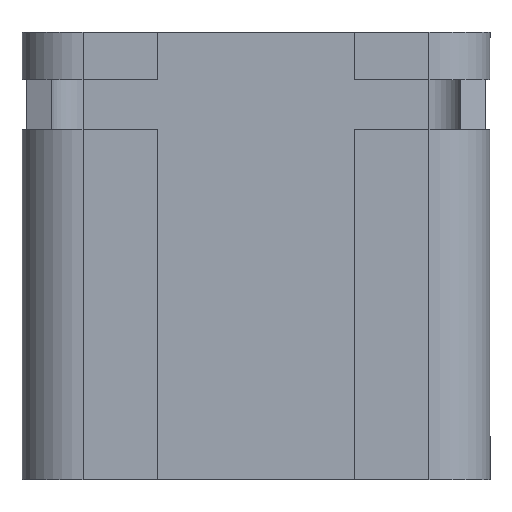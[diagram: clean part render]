
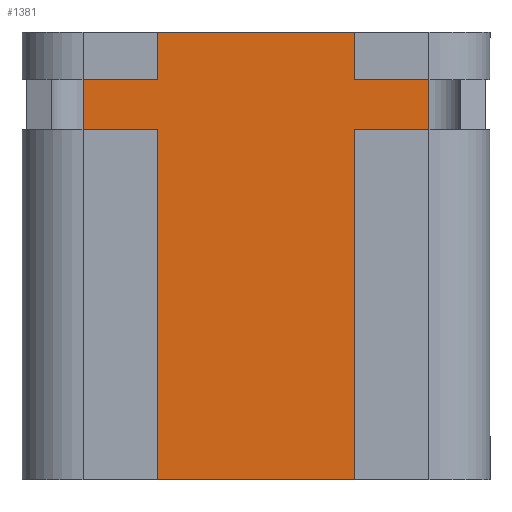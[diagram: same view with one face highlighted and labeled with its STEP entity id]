
A CAD part, front view. The second image highlights one B-rep face of the part: STEP entity #1381.
In plain terms, the highlighted planar face has unit normal (0, -1, 0).
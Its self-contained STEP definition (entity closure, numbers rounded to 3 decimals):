
#31 = CARTESIAN_POINT ( 'NONE',  ( 4., 2.45, -6.6 ) ) ;
#92 = VERTEX_POINT ( 'NONE', #378 ) ;
#125 = LINE ( 'NONE', #1369, #1791 ) ;
#138 = FACE_OUTER_BOUND ( 'NONE', #1848, .T. ) ;
#310 = EDGE_CURVE ( 'NONE', #391, #1844, #125, .T. ) ;
#316 = LINE ( 'NONE', #661, #726 ) ;
#378 = CARTESIAN_POINT ( 'NONE',  ( -1.1, 2.45, -6.6 ) ) ;
#391 = VERTEX_POINT ( 'NONE', #960 ) ;
#473 = ORIENTED_EDGE ( 'NONE', *, *, #1401, .F. ) ;
#521 = ORIENTED_EDGE ( 'NONE', *, *, #310, .F. ) ;
#578 = DIRECTION ( 'NONE',  ( 0., 0., 1. ) ) ;
#661 = CARTESIAN_POINT ( 'NONE',  ( -2., 2.45, -6.6 ) ) ;
#664 = CARTESIAN_POINT ( 'NONE',  ( -2., 2.45, -6.6 ) ) ;
#726 = VECTOR ( 'NONE', #1891, 1000. ) ;
#842 = ORIENTED_EDGE ( 'NONE', *, *, #1592, .T. ) ;
#915 = CARTESIAN_POINT ( 'NONE',  ( 4., 2.45, -6.6 ) ) ;
#960 = CARTESIAN_POINT ( 'NONE',  ( -1.1, 2.45, 0. ) ) ;
#974 = VERTEX_POINT ( 'NONE', #31 ) ;
#1039 = LINE ( 'NONE', #915, #1378 ) ;
#1079 = CARTESIAN_POINT ( 'NONE',  ( -1.1, 2.45, -6.6 ) ) ;
#1162 = CARTESIAN_POINT ( 'NONE',  ( 4., 2.45, 0. ) ) ;
#1369 = CARTESIAN_POINT ( 'NONE',  ( -2., 2.45, 0. ) ) ;
#1378 = VECTOR ( 'NONE', #578, 1000. ) ;
#1381 = ADVANCED_FACE ( 'NONE', ( #138 ), #1433, .T. ) ;
#1401 = EDGE_CURVE ( 'NONE', #92, #391, #1846, .T. ) ;
#1433 = PLANE ( 'NONE',  #1699 ) ;
#1592 = EDGE_CURVE ( 'NONE', #974, #1844, #1039, .T. ) ;
#1678 = DIRECTION ( 'NONE',  ( 0., 0., -1. ) ) ;
#1699 = AXIS2_PLACEMENT_3D ( 'NONE', #664, #1734, #1678 ) ;
#1713 = ORIENTED_EDGE ( 'NONE', *, *, #1835, .T. ) ;
#1734 = DIRECTION ( 'NONE',  ( 0., -1., 0. ) ) ;
#1736 = DIRECTION ( 'NONE',  ( 1., 0., 0. ) ) ;
#1791 = VECTOR ( 'NONE', #1736, 1000. ) ;
#1828 = DIRECTION ( 'NONE',  ( 0., 0., 1. ) ) ;
#1835 = EDGE_CURVE ( 'NONE', #92, #974, #316, .T. ) ;
#1844 = VERTEX_POINT ( 'NONE', #1162 ) ;
#1846 = LINE ( 'NONE', #1079, #1959 ) ;
#1848 = EDGE_LOOP ( 'NONE', ( #521, #473, #1713, #842 ) ) ;
#1891 = DIRECTION ( 'NONE',  ( 1., 0., 0. ) ) ;
#1959 = VECTOR ( 'NONE', #1828, 1000. ) ;
